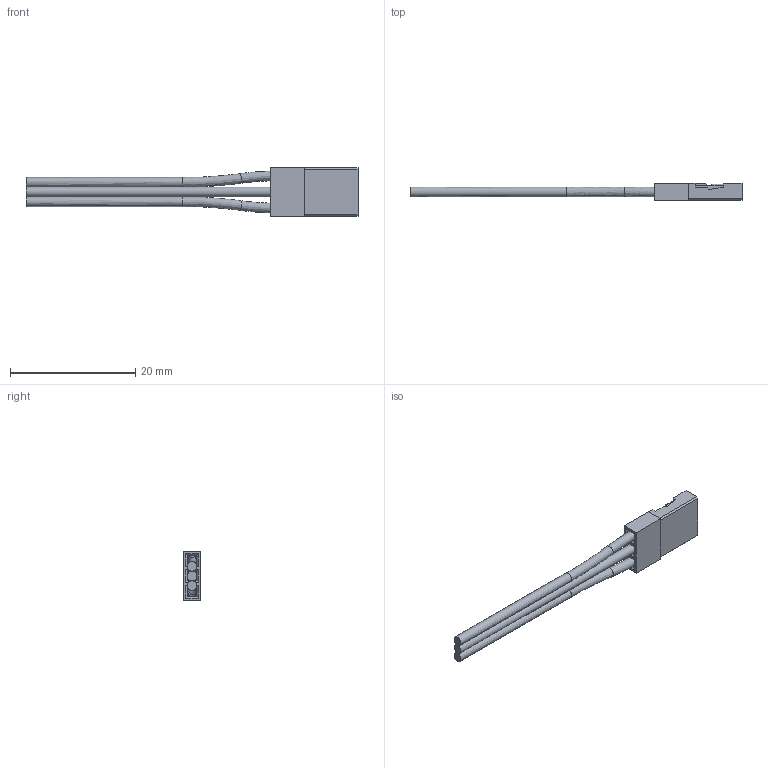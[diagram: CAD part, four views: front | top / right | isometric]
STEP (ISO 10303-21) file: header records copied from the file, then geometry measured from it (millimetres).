
FILE_DESCRIPTION(/* description */ (''),/* implementation_level */ '2;1');
FILE_NAME(/* name */ 'C:\Users\PaulT\Desktop\GrabCAD\JR-3_with_cable.stp',/* time_stamp */ '2019-01-29T14:13:12+01:00',/* author */ ('PaulT'),/* organization */ (''),/* preprocessor_version */ 'ST-DEVELOPER v17.2',/* originating_system */ 'Autodesk Inventor 2019',/* authorisation */ '');
FILE_SCHEMA (('AUTOMOTIVE_DESIGN { 1 0 10303 214 3 1 1 }'));
Length unit declared in the file: millimetre
Products named in the file (4): JR-3_with_contact; JR-3; JWT-CONTACT; Cable_JR
Assembly tree (5 placements, depth 2):
  JR-3_with_contact
    JR-3
    JWT-CONTACT  x3
    Cable_JR
Bounding box: 53.01 x 2.75 x 7.9 mm (x, y, z)
Volume: 453.8 mm3; surface area: 1584.7 mm2
Topology: 7 solids, 7 shells, 160 faces, 414 edges, 265 vertices
Faces by surface type: plane 135, cylinder 19, bspline 6
Full cylindrical faces by diameter (mm): 1.55 x1
Entity records: 4159 total; most frequent: CARTESIAN_POINT 816, ORIENTED_EDGE 660, DIRECTION 633, EDGE_CURVE 330, LINE 285, VECTOR 285, VERTEX_POINT 209, AXIS2_PLACEMENT_3D 174
